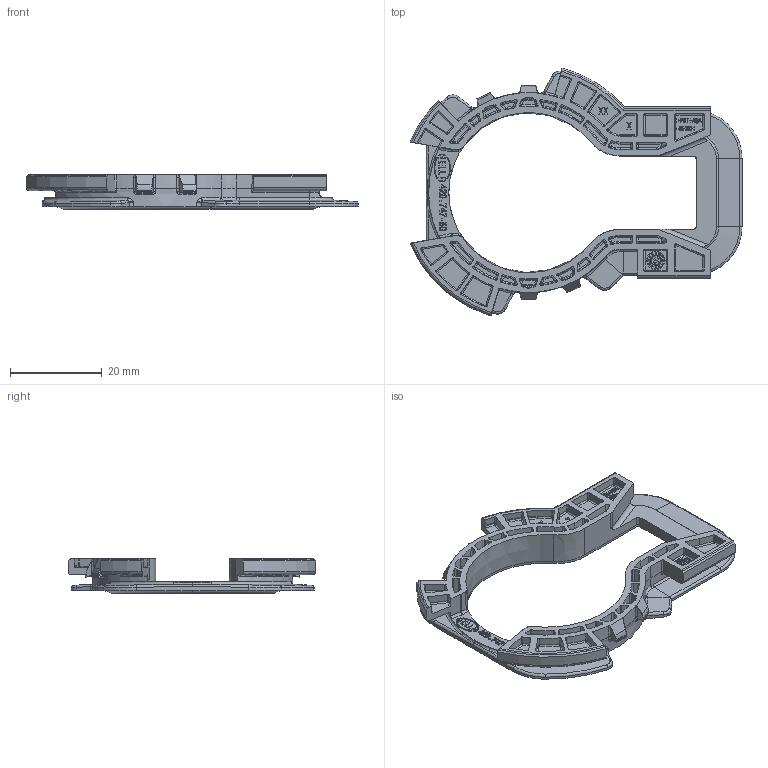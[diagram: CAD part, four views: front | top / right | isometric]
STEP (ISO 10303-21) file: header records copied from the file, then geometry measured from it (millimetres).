
FILE_DESCRIPTION(('HOOPS Exchange Step'),'2;1');
FILE_NAME('C:\Temp\3D data Important Information\HELLA_3D_data_Bracket_PUR_liquid_adhesive_Plastic_9XD-420-747-50.stp','2022-06-24T11:00:18+02:00',('gotsje1'),('Unknown organisation'),'HOOPS Exchange 2021.2','HOOPS Exchange','Unknown authorisation');
FILE_SCHEMA( ('AUTOMOTIVE_DESIGN { 1 0 10303 214 1 1 1 1 }') );
Length unit declared in the file: millimetre
Products named in the file (1): 10001092460_D10_001
Bounding box: 72.2 x 53.91 x 7.54 mm (x, y, z)
Volume: 5423.2 mm3; surface area: 7735.4 mm2
Topology: 1 solids, 1 shells, 2100 faces, 5529 edges, 3387 vertices
Faces by surface type: plane 886, extrusion 405, cylinder 270, bspline 210, sphere 142, torus 109, cone 78
Entity records: 81837 total; most frequent: CARTESIAN_POINT 34787, ORIENTED_EDGE 10764, DIRECTION 7733, EDGE_CURVE 5382, VERTEX_POINT 3387, VECTOR 2985, LINE 2580, AXIS2_PLACEMENT_3D 2374
